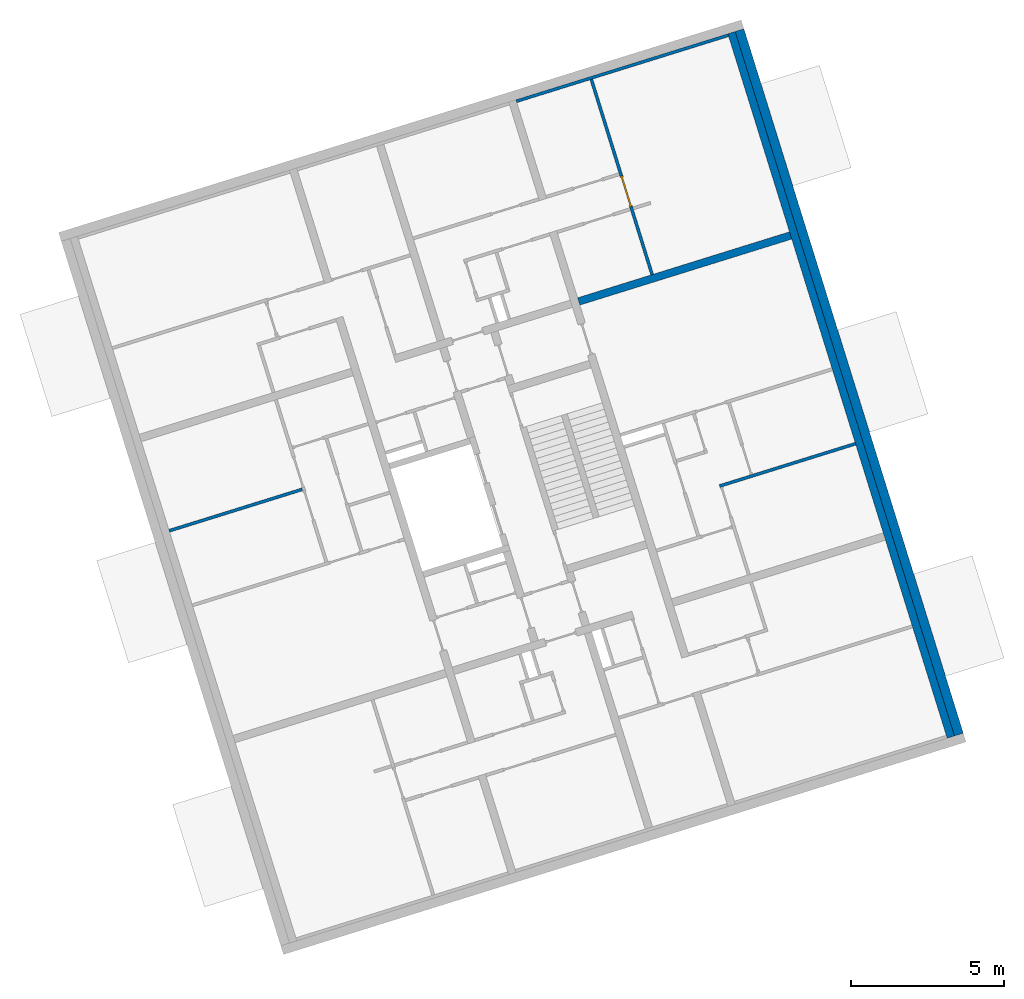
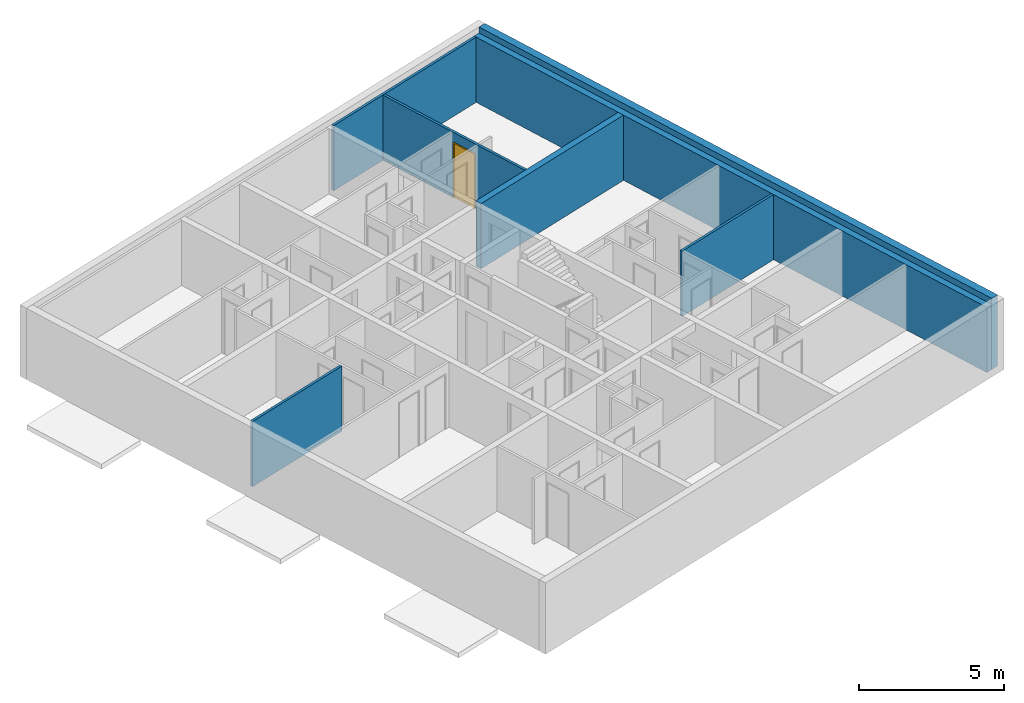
# One storey, part 7 of 9: 7 walls, 1 door, 4 openings.
"""IFC4 building model written with IfcOpenShell, lengths in metres."""

from ifc_helpers import new_model, entity, si_unit, converted_unit, direction, frame, origin, place, context, subcontext, project, spatial, indexed_curve, outline, extrude, polygons, source, transform, mapped, material, constituent, constituent_set, type_object, type_shapes, element, fill, save


model = new_model("IFC4")

# Units and contexts
model_context = context("Model", 3, precision=1e-05, world=origin(), true_north=direction((6.12323399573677e-17, 1.0)))
body_context = subcontext(model_context, "Body", "Model", "MODEL_VIEW")
ifc_project = project(units=[si_unit("LENGTHUNIT", "METRE"), si_unit("AREAUNIT", "SQUARE_METRE"), si_unit("VOLUMEUNIT", "CUBIC_METRE"), converted_unit("PLANEANGLEUNIT", "DEGREE", entity("IfcPlaneAngleMeasure", 0.0174532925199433), si_unit("PLANEANGLEUNIT", "RADIAN"), dimensions=[0, 0, 0, 0, 0, 0, 0])], contexts=[model_context])

# Site, building, storey
site_placement = place(None, frame((13.1347999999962, 11.9886000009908, 0.0), z_axis=(0.0, 0.0, 1.0), x_axis=(0.954770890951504, 0.297342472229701, 0.0)))
site = spatial("IfcSite", under=ifc_project, at=site_placement, Name="Schiehaven", CompositionType="ELEMENT")
building_placement = place(site_placement, origin())
building = spatial("IfcBuilding", under=site, at=building_placement, Name="VORM huis", CompositionType="ELEMENT")
storey_placement = place(building_placement, frame((0.0, 0.0, 18.9)))
storey = spatial("IfcBuildingStorey", under=building, at=storey_placement, Name="06 zesde verdieping", CompositionType="ELEMENT", Elevation=18.9)

# Walls
ifc_material_1 = material(Name="beton_gewapend_ihw", Category="Miscellaneous")
wall_type_1 = type_object("IfcWallType", Name="Basic Wall:28_WA_skelet_wand 250mm_gen", PredefinedType="STANDARD")
wall_1_placement = place(storey_placement, frame((27.5000000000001, 5.0, 0.0), z_axis=(0.0, 0.0, 1.0), x_axis=(0.0, 1.0, 0.0)))
element("IfcWall", 1, at=wall_1_placement, inside=storey, type_object=wall_type_1, material=ifc_material_1, Name="Constructieve wand", ObjectType="Wand", PredefinedType="NOTDEFINED", context=body_context, shape_type="SweptSolid", body=[
    extrude(outline(indexed_curve([(24.1, 0.125000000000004), (-1.12157309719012e-16, 0.125000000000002), (1.12157309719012e-16, -0.125000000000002), (24.1, -0.125), (24.1, 0.125000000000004)], self_intersect=False)), origin(), (0.0, 0.0, 1.0), 2.75),
])
ifc_material_2 = material(Name="ntb_ntb_ntb", Category="Miscellaneous")
wall_type_2 = type_object("IfcWallType", Name="Basic Wall:21_WA_gevel_binnenspouwwand 100mm_gen", PredefinedType="STANDARD")
wall_2_placement = place(storey_placement, frame((20.1250000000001, 29.05, 0.0)))
element("IfcWall", 2, at=wall_2_placement, inside=storey, type_object=wall_type_2, material=ifc_material_2, Name="Binnenspouwblad", ObjectType="Wand", PredefinedType="NOTDEFINED", context=body_context, shape_type="SweptSolid", body=[
    extrude(outline(indexed_curve([(7.24999999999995, 0.0500000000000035), (-1.62265042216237e-16, 0.0500000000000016), (1.62265042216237e-16, -0.0500000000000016), (7.24999999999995, -0.0499999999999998), (7.24999999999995, 0.0500000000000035)], self_intersect=False)), origin(), (0.0, 0.0, 1.0), 2.75),
])
wall_type_3 = type_object("IfcWallType", Name="Basic Wall: 300mm_gen", PredefinedType="STANDARD")
wall_3_placement = place(storey_placement, frame((27.7750000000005, 29.0999999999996, 0.0), z_axis=(0.0, 0.0, 1.0), x_axis=(0.0, -1.0, 0.0)))
element("IfcWall", 3, at=wall_3_placement, inside=storey, type_object=wall_type_3, material=ifc_material_2, Name="Gevelwand", ObjectType="Wand", PredefinedType="NOTDEFINED", context=body_context, shape_type="SweptSolid", body=[
    extrude(outline(indexed_curve([(24.1, 0.150000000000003), (2.02161848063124e-15, 0.150000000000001), (-2.02161848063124e-15, -0.150000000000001), (24.1, -0.149999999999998), (24.1, 0.150000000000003)], self_intersect=False)), origin(), (0.0, 0.0, 1.0), 3.0),
])
wall_type_4 = type_object("IfcWallType", Name="Basic Wall:22_WA_afbouw_binnenwand 250mm_gen", PredefinedType="STANDARD")
wall_4_placement = place(storey_placement, frame((20.1250000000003, 22.1999999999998, 0.0)))
element("IfcWall", 4, at=wall_4_placement, inside=storey, type_object=wall_type_4, material=ifc_material_2, Name="Binnenwand", ObjectType="Wand", PredefinedType="NOTDEFINED", context=body_context, shape_type="SweptSolid", body=[
    extrude(outline(indexed_curve([(7.24999999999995, 0.125000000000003), (-1.80881749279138e-15, 0.125000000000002), (1.80881749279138e-15, -0.125000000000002), (7.24999999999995, -0.125000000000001), (7.24999999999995, 0.125000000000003)], self_intersect=False)), origin(), (0.0, 0.0, 1.0), 2.75),
])

# Wall, opening, door
wall_type_5 = type_object("IfcWallType", Name="Basic Wall:22_WA_afbouw_binnenwand 100mm_gen", PredefinedType="STANDARD")
wall_5_placement = place(storey_placement, frame((22.6750000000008, 22.3250000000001, 0.0), z_axis=(0.0, 0.0, 1.0), x_axis=(0.0, 1.0, 0.0)))
wall_5 = element("IfcWall", 5, at=wall_5_placement, inside=storey, type_object=wall_type_5, material=ifc_material_2, Name="Binnenwand", ObjectType="Wand", PredefinedType="NOTDEFINED", context=body_context, shape_type="Tessellation", body=[
    polygons([(4.33146851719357e-15, -0.0499999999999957, 2.16573425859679e-15), (2.2, -0.0499999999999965, 2.16573425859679e-15), (2.3, -0.0499999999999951, 2.16573425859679e-15), (2.32500000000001, -0.0499999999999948, 2.16573425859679e-15), (2.32500000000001, -0.0499999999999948, 2.34999999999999), (3.37500000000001, -0.0499999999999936, 2.34999999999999), (3.37500000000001, -0.0499999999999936, 2.16573425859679e-15), (6.67499999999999, -0.0499999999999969, 2.16573425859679e-15), (6.67499999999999, -0.0499999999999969, 2.75), (2.3, -0.0499999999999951, 2.75), (2.2, -0.0499999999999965, 2.75), (4.33146851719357e-15, -0.0499999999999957, 2.75), (2.325, 0.0500000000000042, 2.34999999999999), (2.325, 0.0500000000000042, 2.16573425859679e-15), (2.3, 0.0500000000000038, 2.16573425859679e-15), (2.2, 0.0500000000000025, 2.16573425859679e-15), (0.0, 0.0500000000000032, 2.16573425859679e-15), (0.0, 0.0500000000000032, 2.75), (2.2, 0.0500000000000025, 2.75), (2.3, 0.0500000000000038, 2.75), (3.4, 0.0500000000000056, 2.75), (3.5, 0.0500000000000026, 2.75), (6.67499999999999, 0.050000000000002, 2.75), (6.67499999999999, 0.050000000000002, 2.16573425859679e-15), (3.5, 0.0500000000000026, 2.16573425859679e-15), (3.4, 0.0500000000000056, 2.16573425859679e-15), (3.37500000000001, 0.0500000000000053, 2.16573425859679e-15), (3.37500000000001, 0.0500000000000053, 2.34999999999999)], [[[1, 2, 3, 4, 5, 6, 7, 8, 9, 10, 11, 12]], [[13, 14, 15, 16, 17, 18, 19, 20, 21, 22, 23, 24, 25, 26, 27, 28]], [[17, 16, 15, 14, 4, 3, 2, 1]], [[9, 8, 24, 23]], [[12, 11, 10, 9, 23, 22, 21, 20, 19, 18]], [[1, 12, 18, 17]], [[7, 6, 28, 27]], [[5, 4, 14, 13]], [[6, 5, 13, 28]], [[27, 26, 25, 24, 8, 7]]], closed=True),
])
opening_1_placement = place(wall_5_placement, frame((2.325, -0.0500000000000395, 0.0)))
opening_1 = element("IfcOpeningElement", 6, at=opening_1_placement, cuts=wall_5, Name="Binnendeur", PredefinedType="OPENING", context=body_context, shape_type="SweptSolid", body=[
    extrude(outline(indexed_curve([(2.34999999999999, 1.05), (0.0, 1.05), (0.0, -4.30326930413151e-29), (2.34999999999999, -4.30326930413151e-29), (2.34999999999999, 1.05)], self_intersect=False)), frame((0.0, 0.0, 0.0), z_axis=(0.0, 1.0, 0.0), x_axis=(0.0, 0.0, 1.0)), (0.0, 0.0, 1.0), 0.1),
])
ifc_material_3 = material(Name="PD_a_binnenwandopeningen", Category="Miscellaneous")
ifc_constituent_1 = constituent(ifc_material_3, Name="PD_a_binnenwandopeningen", Category="Miscellaneous")
ifc_material_4 = material(Name="metaal_aluminium_ntb", Category="Miscellaneous")
ifc_constituent_2 = constituent(ifc_material_4, Name="metaal_aluminium_ntb", Category="Miscellaneous")
ifc_constituent_set = constituent_set(constituents=[ifc_constituent_1, ifc_constituent_2])
door_type = type_object("IfcDoorType", Name="32_DO_binnendeur enkel:binnendeur", OperationType="REVOLVING", PredefinedType="DOOR")
shared_shape = source(origin(), body_context, "Body", "SweptSolid", [
    extrude(outline(indexed_curve([(-1.16249999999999, -0.525000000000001), (1.18749999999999, -0.525), (1.18749999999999, 0.525), (-1.16249999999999, 0.525), (-1.16249999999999, 0.475), (1.13749999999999, 0.475), (1.13749999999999, -0.475), (-1.16249999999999, -0.475), (-1.16249999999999, -0.525000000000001)], self_intersect=False)), frame((0.525000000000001, 0.0, 1.16249999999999), z_axis=(0.0, 1.0, 0.0), x_axis=(0.0, 0.0, 1.0)), (0.0, 0.0, 1.0), 0.1),
    extrude(outline(indexed_curve([(-0.025, -0.475), (0.025, -0.475), (0.025, 0.475), (-0.025, 0.475), (-0.025, -0.475)], self_intersect=False)), frame((0.525000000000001, 0.0499999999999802, 0.0), z_axis=(0.0, 0.0, 1.0), x_axis=(0.0, 1.0, 0.0)), (0.0, 0.0, 1.0), 2.29999999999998),
])
type_shapes(door_type, [shared_shape])
door_placement = place(opening_1_placement, origin())
door = element("IfcDoor", 7, at=door_placement, inside=storey, type_object=door_type, material=ifc_constituent_set, Name="Binnendeur", ObjectType="Deur", OperationType="REVOLVING", OverallHeight=2.34999999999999, OverallWidth=1.05, PredefinedType="DOOR", context=body_context, shape_type="MappedRepresentation", body=[
    mapped(shared_shape, transform((0.0, 0.0, 0.0), scale=1.0)),
])
fill(opening_1, door)

# Wall, openings
wall_6_placement = place(storey_placement, frame((22.7250000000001, 15.075, 0.0)))
wall_6 = element("IfcWall", 8, at=wall_6_placement, inside=storey, type_object=wall_type_5, material=ifc_material_2, Name="Binnenwand", ObjectType="Wand", PredefinedType="NOTDEFINED", context=body_context, shape_type="Tessellation", body=[
    polygons([(2.32806113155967e-16, -0.0500000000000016, 2.16573425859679e-15), (4.65000000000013, -0.0500000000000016, 2.16573425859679e-15), (4.65000000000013, -0.0500000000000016, 2.75), (0.0999999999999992, -0.0500000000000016, 2.75), (2.32806113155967e-16, -0.0500000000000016, 2.75), (2.32806113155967e-16, -0.0500000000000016, 2.34999999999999), (-1.98070570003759e-16, 0.0499999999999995, 2.16573425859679e-15), (-1.98070570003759e-16, 0.0499999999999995, 2.75), (1.05, 0.0499999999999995, 2.75), (1.15, 0.0499999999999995, 2.75), (4.65000000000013, 0.0499999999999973, 2.75), (4.65000000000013, 0.0499999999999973, 2.16573425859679e-15)], [[[1, 2, 3, 4, 5, 6]], [[7, 8, 9, 10, 11, 12]], [[2, 1, 7, 12]], [[3, 2, 12, 11]], [[5, 4, 3, 11, 10, 9, 8]], [[1, 6, 5, 8, 7]]], closed=True),
])
opening_2_placement = place(wall_6_placement, origin())
element("IfcOpeningElement", 9, at=opening_2_placement, cuts=wall_6, Name="Binnendeur", PredefinedType="OPENING", context=body_context, shape_type="SweptSolid", body=[
    extrude(outline(indexed_curve([(-0.0499999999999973, -1.17499999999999), (0.0500000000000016, -1.17499999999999), (0.0500000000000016, 1.17499999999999), (-0.0499999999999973, 1.17499999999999), (-0.0499999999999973, -1.17499999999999)], self_intersect=False)), frame((0.050000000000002, -1.1, 1.17499999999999), z_axis=(0.0, 1.0, 0.0), x_axis=(1.0, 0.0, 0.0)), (0.0, 0.0, 1.0), 1.05),
])
opening_3_placement = place(wall_6_placement, origin())
element("IfcOpeningElement", 10, at=opening_3_placement, cuts=wall_6, Name="Binnendeur", PredefinedType="OPENING", context=body_context, shape_type="SweptSolid", body=[
    extrude(outline(indexed_curve([(-0.0500000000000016, -1.17499999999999), (0.0499999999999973, -1.17499999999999), (0.0499999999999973, 1.17499999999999), (-0.0500000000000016, 1.17499999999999), (-0.0500000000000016, -1.17499999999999)], self_intersect=False)), frame((1.1, 0.0500000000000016, 1.17499999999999), z_axis=(0.0, 1.0, 0.0), x_axis=(1.0, 0.0, 0.0)), (0.0, 0.0, 1.0), 1.05),
])

# Wall, opening
wall_7_placement = place(storey_placement, frame((9.6750000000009, 19.0250000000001, 0.0), z_axis=(0.0, 0.0, 1.0), x_axis=(-1.0, 0.0, 0.0)))
wall_7 = element("IfcWall", 11, at=wall_7_placement, inside=storey, type_object=wall_type_5, material=ifc_material_2, Name="Binnenwand", ObjectType="Wand", PredefinedType="NOTDEFINED", context=body_context, shape_type="Tessellation", body=[
    polygons([(3.01916530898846e-16, -0.0500000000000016, 2.16573425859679e-15), (4.55000000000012, -0.0500000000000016, 2.16573425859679e-15), (4.55000000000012, -0.0500000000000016, 2.75), (3.01916530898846e-16, -0.0500000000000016, 2.75), (3.01916530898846e-16, -0.0500000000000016, 2.34999999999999), (6.73589386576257e-16, 0.0500000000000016, 2.16573425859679e-15), (6.73589386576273e-16, 0.0499999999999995, 2.34999999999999), (6.73589386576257e-16, 0.0500000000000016, 2.75), (4.55000000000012, 0.0499999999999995, 2.75), (4.55000000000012, 0.0499999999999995, 2.16573425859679e-15)], [[[1, 2, 3, 4, 5]], [[6, 7, 8, 9, 10]], [[2, 1, 6, 10]], [[3, 2, 10, 9]], [[4, 3, 9, 8]], [[1, 5, 4, 8, 7, 6]]], closed=True),
])
opening_4_placement = place(wall_7_placement, origin())
element("IfcOpeningElement", 12, at=opening_4_placement, cuts=wall_7, Name="Binnendeur", PredefinedType="OPENING", context=body_context, shape_type="SweptSolid", body=[
    extrude(outline(indexed_curve([(-0.0499999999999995, -1.17499999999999), (0.0499999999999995, -1.17499999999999), (0.0499999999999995, 1.17499999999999), (-0.0499999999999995, 1.17499999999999), (-0.0499999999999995, -1.17499999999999)], self_intersect=False)), frame((-0.049999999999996, -1.1, 1.17499999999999), z_axis=(0.0, 1.0, 0.0), x_axis=(1.0, 0.0, 0.0)), (0.0, 0.0, 1.0), 1.05),
])

save(model, "model.ifc")
